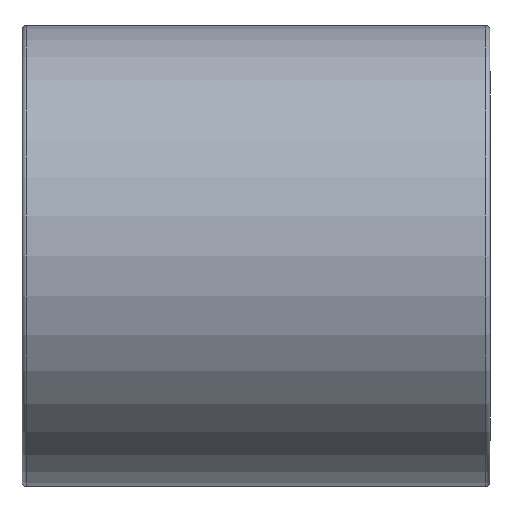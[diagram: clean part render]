
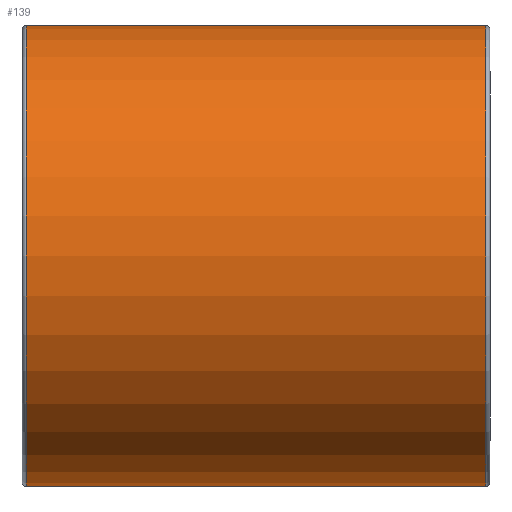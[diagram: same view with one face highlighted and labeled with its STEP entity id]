
A CAD part, front view. The second image highlights one B-rep face of the part: STEP entity #139.
In plain terms, the highlighted cylindrical face has radius 63 mm (diameter 126 mm), a full revolution.
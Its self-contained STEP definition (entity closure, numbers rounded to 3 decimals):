
#16=CYLINDRICAL_SURFACE('',#158,63.);
#27=FACE_BOUND('',#56,.T.);
#39=FACE_OUTER_BOUND('',#55,.T.);
#55=EDGE_LOOP('',(#115));
#56=EDGE_LOOP('',(#116));
#75=CIRCLE('',#157,63.);
#76=CIRCLE('',#159,63.);
#87=VERTEX_POINT('',#236);
#88=VERTEX_POINT('',#239);
#99=EDGE_CURVE('',#87,#87,#75,.T.);
#100=EDGE_CURVE('',#88,#88,#76,.T.);
#115=ORIENTED_EDGE('',*,*,#100,.F.);
#116=ORIENTED_EDGE('',*,*,#99,.F.);
#139=ADVANCED_FACE('',(#39,#27),#16,.T.);
#157=AXIS2_PLACEMENT_3D('',#237,#191,#192);
#158=AXIS2_PLACEMENT_3D('',#238,#193,#194);
#159=AXIS2_PLACEMENT_3D('',#240,#195,#196);
#191=DIRECTION('center_axis',(-1.,0.,0.));
#192=DIRECTION('ref_axis',(0.,-1.,0.));
#193=DIRECTION('center_axis',(1.,0.,0.));
#194=DIRECTION('ref_axis',(0.,1.,0.));
#195=DIRECTION('center_axis',(1.,0.,0.));
#196=DIRECTION('ref_axis',(0.,-1.,0.));
#236=CARTESIAN_POINT('',(-62.9,63.,0.));
#237=CARTESIAN_POINT('Origin',(-62.9,0.,0.));
#238=CARTESIAN_POINT('Origin',(0.,0.,
0.));
#239=CARTESIAN_POINT('',(62.9,63.,0.));
#240=CARTESIAN_POINT('Origin',(62.9,0.,0.));
